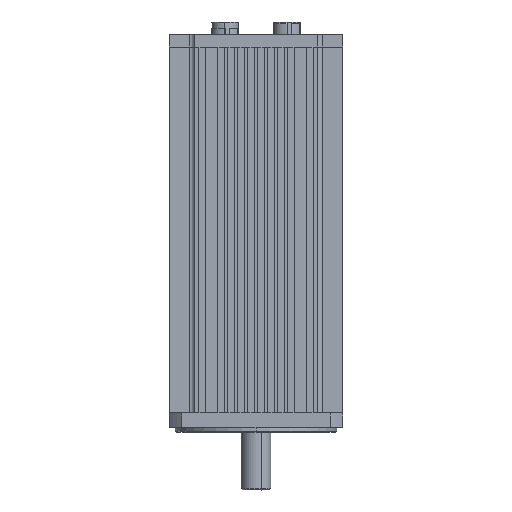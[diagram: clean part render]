
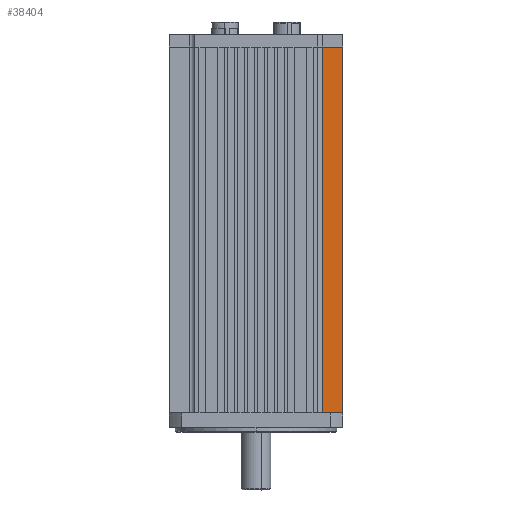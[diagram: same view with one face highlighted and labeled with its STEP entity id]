
A CAD part, front view. The second image highlights one B-rep face of the part: STEP entity #38404.
In plain terms, the highlighted planar face has unit normal (0, -1, 0).
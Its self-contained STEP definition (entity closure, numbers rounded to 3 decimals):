
#37642=CARTESIAN_POINT('',(53.3,-49.3,295.0));
#37643=VERTEX_POINT('',#37642);
#37675=CARTESIAN_POINT('',(70.,-49.3,295.0));
#37676=VERTEX_POINT('',#37675);
#37677=CARTESIAN_POINT('',(70.,-49.3,295.0));
#37678=DIRECTION('',(-1.0,0.0,0.0));
#37679=VECTOR('',#37678,16.7);
#37680=LINE('',#37677,#37679);
#37681=EDGE_CURVE('',#37676,#37643,#37680,.T.);
#38363=CARTESIAN_POINT('',(53.3,-49.3,0.0));
#38364=VERTEX_POINT('',#38363);
#38372=CARTESIAN_POINT('',(53.3,-49.3,0.0));
#38373=DIRECTION('',(0.0,0.0,1.0));
#38374=VECTOR('',#38373,295.0);
#38375=LINE('',#38372,#38374);
#38376=EDGE_CURVE('',#38364,#37643,#38375,.T.);
#38381=CARTESIAN_POINT('',(70.,-49.3,0.0));
#38382=DIRECTION('',(0.0,-1.0,0.0));
#38383=DIRECTION('',(0.0,0.0,-1.0));
#38384=AXIS2_PLACEMENT_3D('',#38381,#38382,#38383);
#38385=PLANE('',#38384);
#38386=ORIENTED_EDGE('',*,*,#37681,.T.);
#38387=ORIENTED_EDGE('',*,*,#38376,.F.);
#38388=CARTESIAN_POINT('',(70.,-49.3,0.0));
#38389=VERTEX_POINT('',#38388);
#38390=CARTESIAN_POINT('',(53.3,-49.3,0.0));
#38391=DIRECTION('',(1.0,0.0,0.0));
#38392=VECTOR('',#38391,16.7);
#38393=LINE('',#38390,#38392);
#38394=EDGE_CURVE('',#38364,#38389,#38393,.T.);
#38395=ORIENTED_EDGE('',*,*,#38394,.T.);
#38396=CARTESIAN_POINT('',(70.,-49.3,0.0));
#38397=DIRECTION('',(0.0,0.0,1.0));
#38398=VECTOR('',#38397,295.0);
#38399=LINE('',#38396,#38398);
#38400=EDGE_CURVE('',#38389,#37676,#38399,.T.);
#38401=ORIENTED_EDGE('',*,*,#38400,.T.);
#38402=EDGE_LOOP('',(#38386,#38387,#38395,#38401));
#38403=FACE_OUTER_BOUND('',#38402,.T.);
#38404=ADVANCED_FACE('',(#38403),#38385,.T.);
